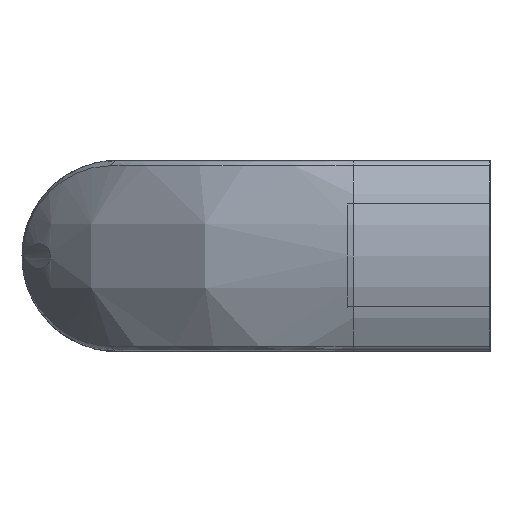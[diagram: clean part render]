
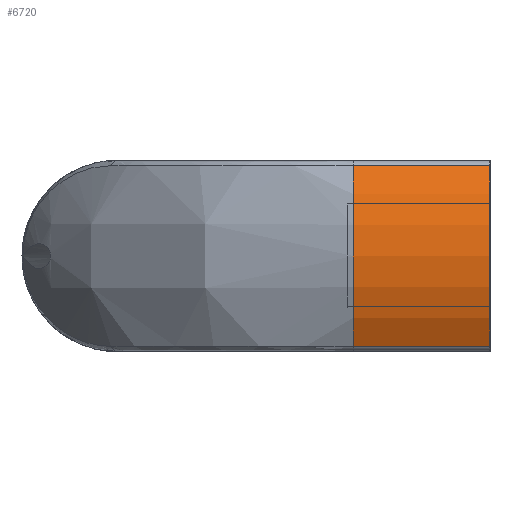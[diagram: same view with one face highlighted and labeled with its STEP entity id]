
A CAD part, left-side view. The second image highlights one B-rep face of the part: STEP entity #6720.
In plain terms, the highlighted cylindrical face has radius 33.125 mm (diameter 66.25 mm), a partial arc.
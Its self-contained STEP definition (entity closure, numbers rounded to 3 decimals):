
#151 = VECTOR ( 'NONE', #1820, 1000. ) ;
#913 = DIRECTION ( 'NONE',  ( 0., 1., 0. ) ) ;
#1016 = CARTESIAN_POINT ( 'NONE',  ( -20.875, 25., 0. ) ) ;
#1108 = ORIENTED_EDGE ( 'NONE', *, *, #3635, .T. ) ;
#1202 = ORIENTED_EDGE ( 'NONE', *, *, #2748, .T. ) ;
#1745 = VERTEX_POINT ( 'NONE', #2292 ) ;
#1820 = DIRECTION ( 'NONE',  ( 0., 1., 0. ) ) ;
#2035 = CARTESIAN_POINT ( 'NONE',  ( -20.875, 25., 0. ) ) ;
#2051 = ORIENTED_EDGE ( 'NONE', *, *, #3428, .F. ) ;
#2268 = VECTOR ( 'NONE', #6219, 1000. ) ;
#2292 = CARTESIAN_POINT ( 'NONE',  ( -49.6, 0., 16.496 ) ) ;
#2581 = DIRECTION ( 'NONE',  ( 0., 0., 1. ) ) ;
#2748 = EDGE_CURVE ( 'NONE', #4954, #1745, #5958, .T. ) ;
#2895 = CARTESIAN_POINT ( 'NONE',  ( -49.6, 25., 16.496 ) ) ;
#3078 = ORIENTED_EDGE ( 'NONE', *, *, #3814, .T. ) ;
#3428 = EDGE_CURVE ( 'NONE', #3459, #5231, #6667, .T. ) ;
#3459 = VERTEX_POINT ( 'NONE', #6916 ) ;
#3635 = EDGE_CURVE ( 'NONE', #1745, #5231, #6134, .T. ) ;
#3814 = EDGE_CURVE ( 'NONE', #3459, #4954, #6566, .T. ) ;
#3849 = CYLINDRICAL_SURFACE ( 'NONE', #4226, 33.125 ) ;
#4188 = CARTESIAN_POINT ( 'NONE',  ( -20.875, 0., 0. ) ) ;
#4226 = AXIS2_PLACEMENT_3D ( 'NONE', #1016, #6997, #5872 ) ;
#4732 = DIRECTION ( 'NONE',  ( 0., 0., 1. ) ) ;
#4886 = EDGE_LOOP ( 'NONE', ( #1202, #1108, #2051, #3078 ) ) ;
#4897 = AXIS2_PLACEMENT_3D ( 'NONE', #2035, #5772, #2581 ) ;
#4954 = VERTEX_POINT ( 'NONE', #5598 ) ;
#5231 = VERTEX_POINT ( 'NONE', #6282 ) ;
#5598 = CARTESIAN_POINT ( 'NONE',  ( -49.6, 0., -16.496 ) ) ;
#5647 = CARTESIAN_POINT ( 'NONE',  ( -49.6, 25., -16.496 ) ) ;
#5772 = DIRECTION ( 'NONE',  ( 0., 1., 0. ) ) ;
#5872 = DIRECTION ( 'NONE',  ( 1., 0., 0. ) ) ;
#5958 = CIRCLE ( 'NONE', #6467, 33.125 ) ;
#6134 = LINE ( 'NONE', #2895, #151 ) ;
#6219 = DIRECTION ( 'NONE',  ( 0., -1., 0. ) ) ;
#6282 = CARTESIAN_POINT ( 'NONE',  ( -49.6, 25., 16.496 ) ) ;
#6467 = AXIS2_PLACEMENT_3D ( 'NONE', #4188, #913, #4732 ) ;
#6566 = LINE ( 'NONE', #5647, #2268 ) ;
#6667 = CIRCLE ( 'NONE', #4897, 33.125 ) ;
#6720 = ADVANCED_FACE ( 'NONE', ( #6905 ), #3849, .T. ) ;
#6905 = FACE_OUTER_BOUND ( 'NONE', #4886, .T. ) ;
#6916 = CARTESIAN_POINT ( 'NONE',  ( -49.6, 25., -16.496 ) ) ;
#6997 = DIRECTION ( 'NONE',  ( 0., -1., 0. ) ) ;
